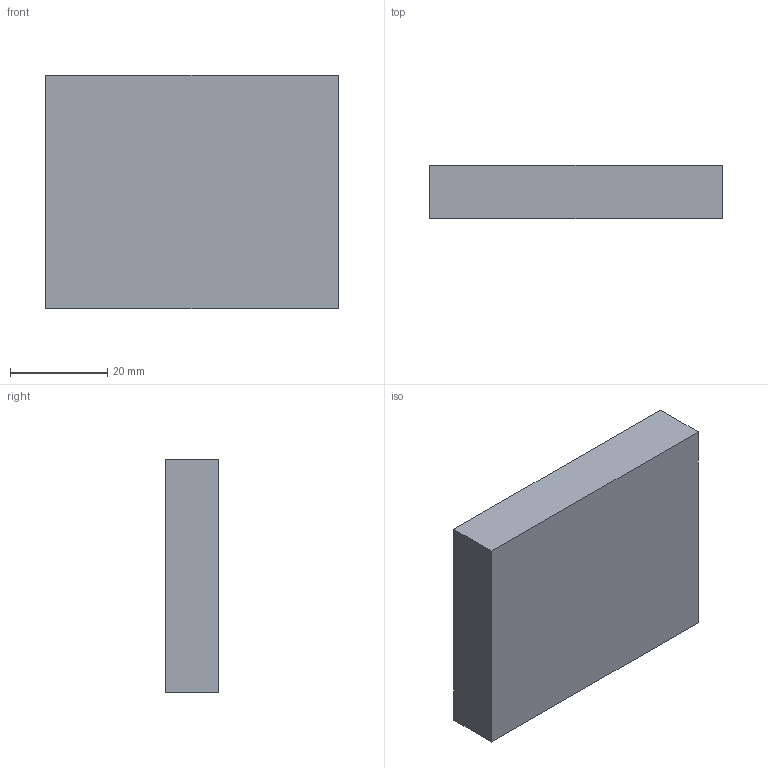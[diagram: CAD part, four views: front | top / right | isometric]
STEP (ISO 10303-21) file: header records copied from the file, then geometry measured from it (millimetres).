
FILE_DESCRIPTION(('Open CASCADE Model'),'2;1');
FILE_NAME('Open CASCADE Shape Model','2026-09-29T12:48:04',('Author'),( 'Open CASCADE'),'Open CASCADE STEP processor 7.9','Open CASCADE 7.9' ,'Unknown');
FILE_SCHEMA(('AUTOMOTIVE_DESIGN { 1 0 10303 214 1 1 1 1 }'));
Length unit declared in the file: millimetre
Products named in the file (1): Open CASCADE STEP translator 7.9 23
Bounding box: 60 x 11 x 48 mm (x, y, z)
Volume: 31680 mm3; surface area: 8136 mm2
Topology: 1 solids, 1 shells, 6 faces, 12 edges, 8 vertices
Faces by surface type: plane 6
Entity records: 322 total; most frequent: CARTESIAN_POINT 51, DIRECTION 50, LINE 36, VECTOR 36, ORIENTED_EDGE 24, PCURVE 24, DEFINITIONAL_REPRESENTATION 24, EDGE_CURVE 12
